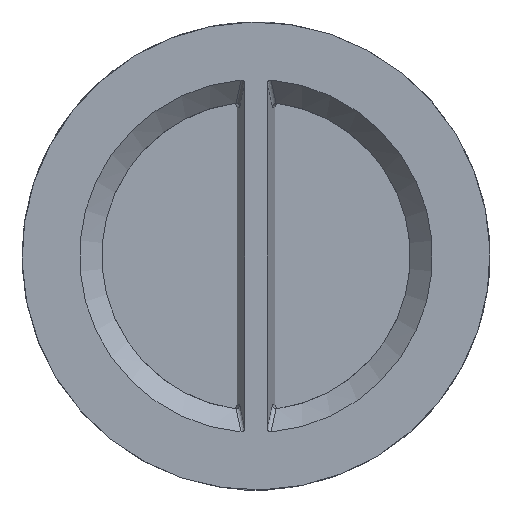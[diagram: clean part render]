
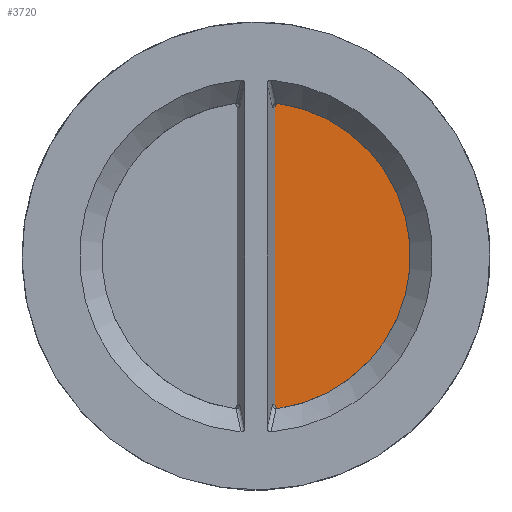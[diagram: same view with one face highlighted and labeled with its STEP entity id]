
A CAD part, front view. The second image highlights one B-rep face of the part: STEP entity #3720.
In plain terms, the highlighted planar face has unit normal (0, -1, 0) as drawn and (0, 0, 1) by its records, which use the part's own axes.
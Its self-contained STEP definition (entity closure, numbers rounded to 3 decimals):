
#3720=ADVANCED_FACE('',(#7369),#7371,.T.);
#7369=FACE_BOUND('',#7370,.T.);
#7370=EDGE_LOOP('',(#17314,#17315));
#7371=PLANE('',#7372);
#7372=AXIS2_PLACEMENT_3D('',#7373,#7374,#7375);
#7373=CARTESIAN_POINT('',(0.,0.,11.99));
#7374=DIRECTION('',(0.,0.,1.));
#7375=DIRECTION('',(-1.,0.,0.));
#17314=ORIENTED_EDGE('',*,*,#18435,.T.);
#17315=ORIENTED_EDGE('',*,*,#18461,.T.);
#18435=EDGE_CURVE('',#20173,#20171,#20174,.T.);
#18461=EDGE_CURVE('',#20171,#20173,#20217,.T.);
#20171=VERTEX_POINT('',#34233);
#20173=VERTEX_POINT('',#34237);
#20174=CIRCLE('',#34238,101.);
#20217=LINE('',#34482,#34483);
#34233=CARTESIAN_POINT('',(100.822,-6.,11.99));
#34237=CARTESIAN_POINT('',(-100.822,-6.,11.99));
#34238=AXIS2_PLACEMENT_3D('',#34239,#34240,#34241);
#34239=CARTESIAN_POINT('',(0.,0.,11.99));
#34240=DIRECTION('',(0.,0.,1.));
#34241=DIRECTION('',(-0.998,-0.059,0.));
#34482=CARTESIAN_POINT('',(100.822,-6.,11.99));
#34483=VECTOR('',#34484,1.);
#34484=DIRECTION('',(-1.,0.,0.));
